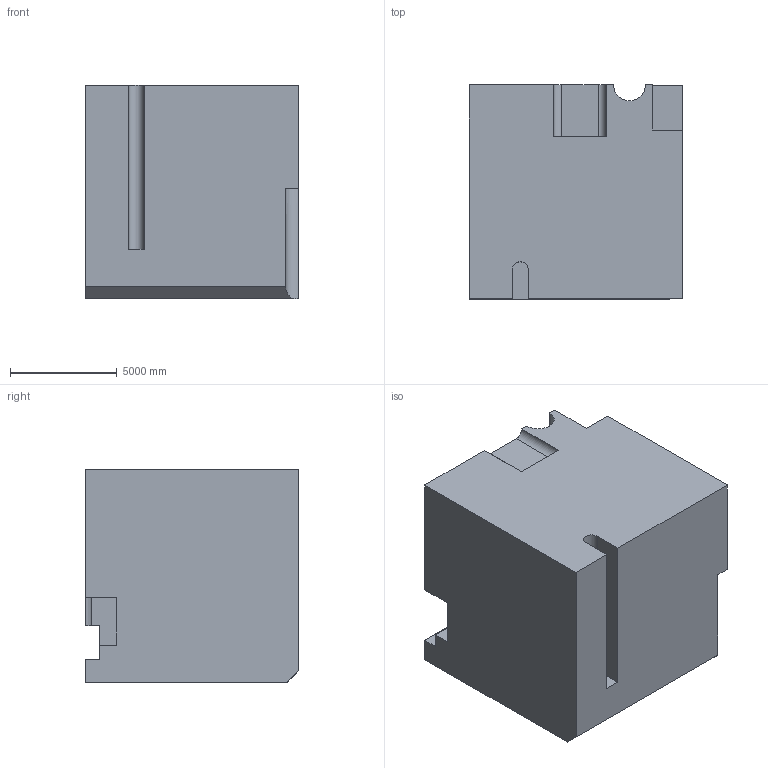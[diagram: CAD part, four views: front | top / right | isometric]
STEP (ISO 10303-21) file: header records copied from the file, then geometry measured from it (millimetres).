
FILE_DESCRIPTION (( 'STEP AP203' ), '1' );
FILE_NAME ('80.STEP', '2022-08-30T14:26:12', ( 'user' ), ( '' ), 'SwSTEP 2.0', 'SolidWorks 2021', '' );
FILE_SCHEMA (( 'CONFIG_CONTROL_DESIGN' ));
Length unit declared in the file: centimetre
Products named in the file (1): 80
Bounding box: 10000 x 10000 x 10000 mm (x, y, z)
Volume: 921578275411.7 mm3; surface area: 649890988.2 mm2
Topology: 1 solids, 1 shells, 38 faces, 108 edges, 72 vertices
Faces by surface type: plane 31, cylinder 7
Entity records: 1308 total; most frequent: CARTESIAN_POINT 222, ORIENTED_EDGE 216, DIRECTION 204, EDGE_CURVE 108, LINE 88, VECTOR 88, VERTEX_POINT 72, AXIS2_PLACEMENT_3D 58
